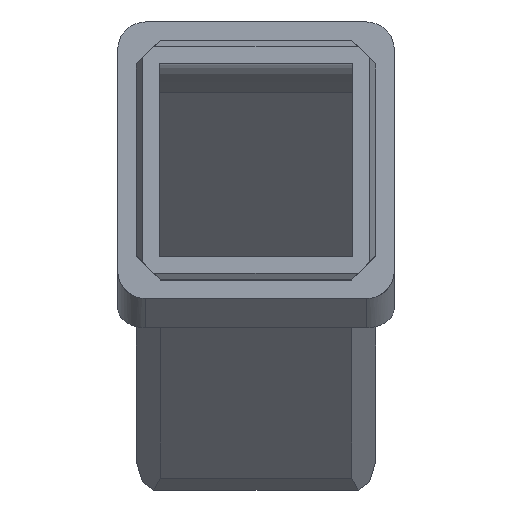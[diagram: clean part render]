
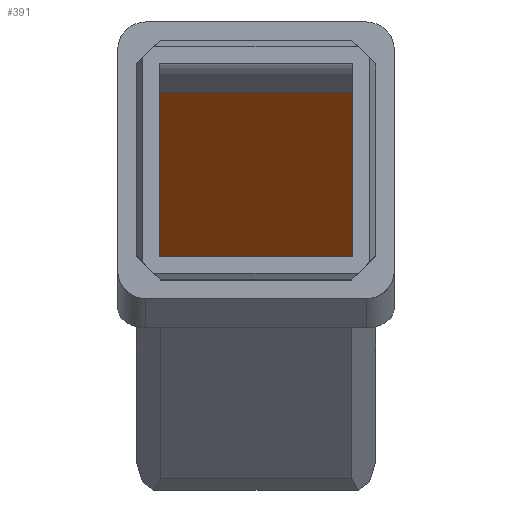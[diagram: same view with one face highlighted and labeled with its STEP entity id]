
A CAD part, top view. The second image highlights one B-rep face of the part: STEP entity #391.
In plain terms, the highlighted planar face has unit normal (0, -0.707, 0.707).
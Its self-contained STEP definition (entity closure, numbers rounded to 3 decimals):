
#15 = CARTESIAN_POINT ( 'NONE',  ( -10.5, -19.594, -72.653 ) ) ;
#43 = LINE ( 'NONE', #1369, #1343 ) ;
#63 = DIRECTION ( 'NONE',  ( 0., -0.707, -0.707 ) ) ;
#91 = CARTESIAN_POINT ( 'NONE',  ( -10.5, 11.818, -41.241 ) ) ;
#148 = DIRECTION ( 'NONE',  ( 0., -0.707, -0.707 ) ) ;
#169 = CARTESIAN_POINT ( 'NONE',  ( -15., -19.594, -72.653 ) ) ;
#232 = VERTEX_POINT ( 'NONE', #1357 ) ;
#242 = VERTEX_POINT ( 'NONE', #15 ) ;
#310 = PLANE ( 'NONE',  #1336 ) ;
#327 = VECTOR ( 'NONE', #148, 1000. ) ;
#358 = LINE ( 'NONE', #91, #1466 ) ;
#391 = ADVANCED_FACE ( 'NONE', ( #593 ), #310, .T. ) ;
#408 = ORIENTED_EDGE ( 'NONE', *, *, #1523, .T. ) ;
#444 = EDGE_CURVE ( 'NONE', #242, #1201, #446, .T. ) ;
#446 = LINE ( 'NONE', #169, #1587 ) ;
#452 = DIRECTION ( 'NONE',  ( 1., 0., 0. ) ) ;
#463 = VERTEX_POINT ( 'NONE', #992 ) ;
#593 = FACE_OUTER_BOUND ( 'NONE', #875, .T. ) ;
#610 = ORIENTED_EDGE ( 'NONE', *, *, #705, .F. ) ;
#705 = EDGE_CURVE ( 'NONE', #232, #1201, #1089, .T. ) ;
#753 = ORIENTED_EDGE ( 'NONE', *, *, #444, .T. ) ;
#875 = EDGE_LOOP ( 'NONE', ( #408, #753, #610, #1111 ) ) ;
#892 = EDGE_CURVE ( 'NONE', #463, #232, #43, .T. ) ;
#899 = DIRECTION ( 'NONE',  ( 0., -0.707, -0.707 ) ) ;
#974 = DIRECTION ( 'NONE',  ( 1., 0., 0. ) ) ;
#992 = CARTESIAN_POINT ( 'NONE',  ( -10.5, 7.425, -45.635 ) ) ;
#1089 = LINE ( 'NONE', #1219, #327 ) ;
#1111 = ORIENTED_EDGE ( 'NONE', *, *, #892, .F. ) ;
#1120 = DIRECTION ( 'NONE',  ( 0., -0.707, 0.707 ) ) ;
#1130 = CARTESIAN_POINT ( 'NONE',  ( -15., 11.818, -41.241 ) ) ;
#1201 = VERTEX_POINT ( 'NONE', #1382 ) ;
#1219 = CARTESIAN_POINT ( 'NONE',  ( 10.5, -6.289, -59.348 ) ) ;
#1336 = AXIS2_PLACEMENT_3D ( 'NONE', #1130, #1120, #63 ) ;
#1343 = VECTOR ( 'NONE', #452, 1000. ) ;
#1357 = CARTESIAN_POINT ( 'NONE',  ( 10.5, 7.425, -45.635 ) ) ;
#1369 = CARTESIAN_POINT ( 'NONE',  ( -15., 7.425, -45.635 ) ) ;
#1382 = CARTESIAN_POINT ( 'NONE',  ( 10.5, -19.594, -72.653 ) ) ;
#1466 = VECTOR ( 'NONE', #899, 1000. ) ;
#1523 = EDGE_CURVE ( 'NONE', #463, #242, #358, .T. ) ;
#1587 = VECTOR ( 'NONE', #974, 1000. ) ;
